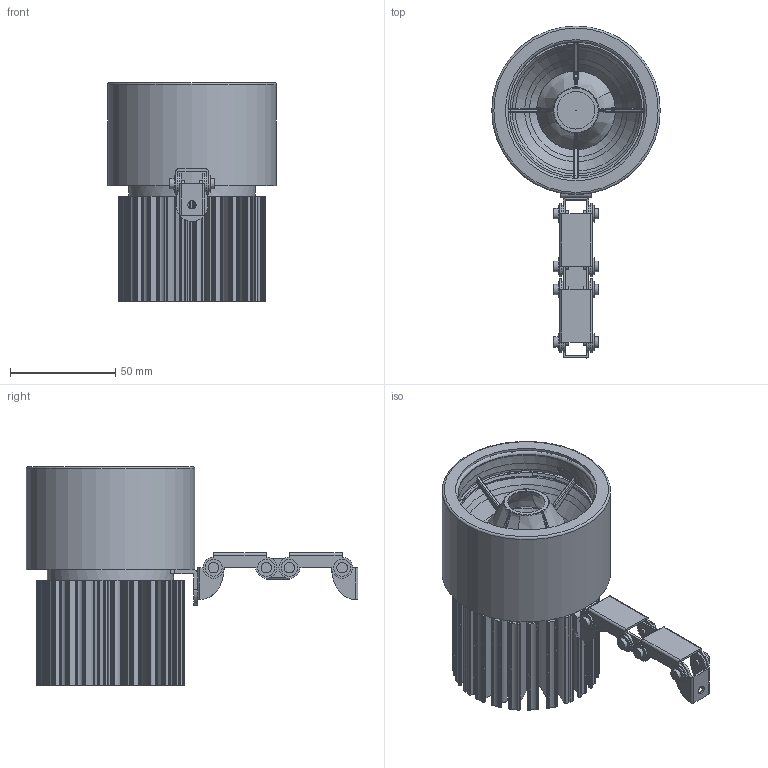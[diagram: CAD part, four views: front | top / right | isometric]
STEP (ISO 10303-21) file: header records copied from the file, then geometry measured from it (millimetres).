
FILE_DESCRIPTION(/* description */ (''),/* implementation_level */ '2;1');
FILE_NAME(/* name */ 'C:/Users/elena/OneDrive/Allegati di posta elettronica/Desktop/Donatello probo.step',/* time_stamp */ '2020-06-03T13:08:17+02:00',/* author */ (''),/* organization */ (''),/* preprocessor_version */ 'ST-DEVELOPER v18.1',/* originating_system */ 'Autodesk Translation Framework v9.3.0.1241',/* authorisation */ '');
FILE_SCHEMA (('AUTOMOTIVE_DESIGN { 1 0 10303 214 3 1 1 }'));
Length unit declared in the file: millimetre
Products named in the file (1): (Unsaved)
Bounding box: 80 x 157.52 x 103.9 mm (x, y, z)
Volume: 193980.5 mm3; surface area: 164180.3 mm2
Topology: 19 solids, 24 shells, 1760 faces, 4826 edges, 3121 vertices
Faces by surface type: cylinder 762, bspline 414, plane 355, cone 138, torus 80, sphere 11
Full cylindrical faces by diameter (mm): 2.5 x8, 3 x26, 4 x2, 5 x8, 5.5 x3, 8 x16, 45 x1, 60 x1, 67 x1, 75 x2, 80 x1
Entity records: 116538 total; most frequent: CARTESIAN_POINT 72953, ORIENTED_EDGE 9614, DIRECTION 8702, EDGE_CURVE 4807, AXIS2_PLACEMENT_3D 3517, VERTEX_POINT 3121, CIRCLE 1953, EDGE_LOOP 1856
